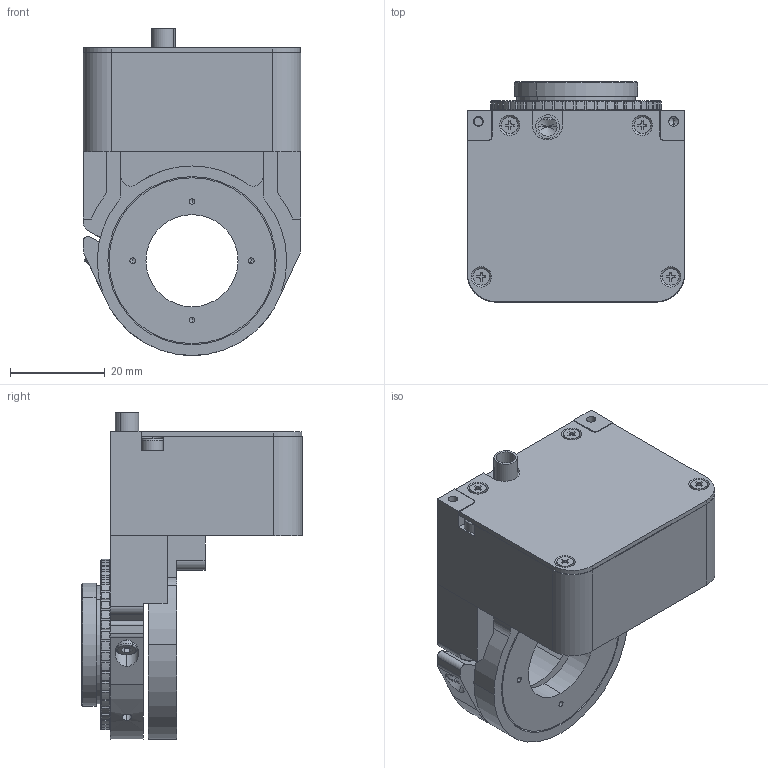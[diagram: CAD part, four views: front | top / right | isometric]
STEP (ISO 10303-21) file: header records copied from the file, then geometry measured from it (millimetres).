
FILE_DESCRIPTION (( 'STEP AP203' ), '1' );
FILE_NAME ('P75.Z200-B1蚾饜极.STEP', '2024-09-21T05:48:33', ( 'daohangxitong.com' ), ( 'daohangxitong.com' ), 'SwSTEP 2.0', 'SolidWorks 2016', '' );
FILE_SCHEMA (( 'CONFIG_CONTROL_DESIGN' ));
Length unit declared in the file: millimetre
Products named in the file (1): P75.Z200-B1蚾饜极
Bounding box: 46 x 46.5 x 69 mm (x, y, z)
Volume: 58637.2 mm3; surface area: 28990.5 mm2
Topology: 20 solids, 20 shells, 787 faces, 2063 edges, 1309 vertices
Faces by surface type: cylinder 338, plane 239, cone 202, torus 8
Entity records: 25027 total; most frequent: CARTESIAN_POINT 5508, DIRECTION 4168, ORIENTED_EDGE 4030, EDGE_CURVE 2015, AXIS2_PLACEMENT_3D 1617, VERTEX_POINT 1309, LINE 934, VECTOR 934
